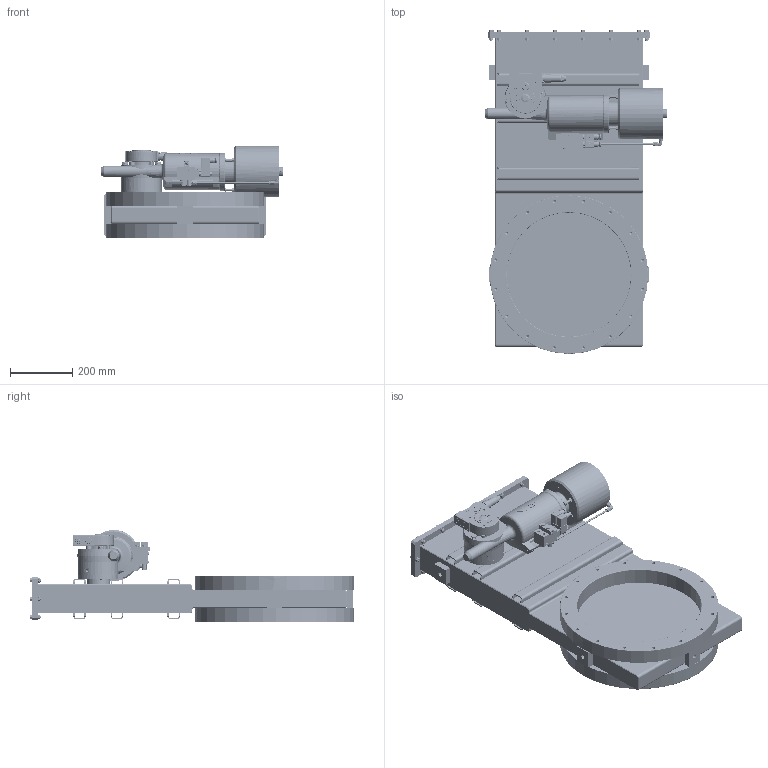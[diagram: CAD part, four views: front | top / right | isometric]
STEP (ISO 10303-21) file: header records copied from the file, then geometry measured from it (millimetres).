
FILE_DESCRIPTION(/* description */ (''),/* implementation_level */ '2;1');
FILE_NAME(/* name */ '1568134612_203.stp',/* time_stamp */ '2024-05-28T17:06:03+02:00',/* author */ (''),/* organization */ (''),/* preprocessor_version */ 'ST-DEVELOPER v19.3',/* originating_system */ 'SIEMENS PLM Software NX2212.6000',/* authorisation */ '');
FILE_SCHEMA (('AP203_CONFIGURATION_CONTROLLED_3D_DESIGN_OF_MECHANICAL_PARTS_AND_ASSEMBLIES_MIM_LF { 1 0 10303 403 2 1 2}'));
Products named in the file (69): 212392; 212406; 212368.4_37828ID; 212368.4_37826ID; 212368.4_37825ID; 212368.4; 212368.4_37823ID; 212363.2_37821ID; 212363.2_37820ID; 1009931; 467863; 467864; N-7501-501_1.2; N-7501-501_2.2; N-6203-417.1; n-6203-105.1; N-6005-474.1; N-6072-440.1; 230594.2; N-6001-499.1; 230595.2; 226273.1; 230591.1; 230750.3; n-6162-406; n-7612-031; N-6039-010.1; N-6051-011.1; n-7016-010; N-6160-011.1; N-7015-015.2; N-5062-002.1; n-7635-310; N-6016-152.1; N-7618-010.2; 48742-01.1; 37324-05.1; N-6036-003.1; 215241.3; 217292.4_37816ID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
Assembly tree (169 placements, depth 5):
  909323
    N-6053-412.2  x14
    215439.12
      217307.4  x5
      217292.4_37815ID
      217292.4_37816ID
      215241.3
      215243_MODEL
        230294
          212363.2_37820ID
          212363.2_37821ID
          212368.4_37823ID
          212368.4  x2
          212368.4_37825ID
          212368.4_37826ID
          212368.4_37828ID
          212406  x2
          212392
    N-5021-498.1  x14
    237670.1
      N-6036-003.1  x2
      37324-05.1
      N-7501-501.4_NX-ARRAGMNTKONFIG1  x2
        N-7501-501_2.2
        N-7501-501_1.2
      48742-01.1
      N-7618-010.2
      N-6016-152.1  x2
      n-7635-310
      N-5062-002.1  x2
      n-8501-300_MODELNX-ARRAGMNTArrangement 1  x2
        467864
        467863
        1009931
      N-7015-015.2  x4
      N-6160-011.1  x2
      n-7016-010  x4
      N-6051-011.1  x2
      N-6039-010.1
      n-7612-031
    230600_2.3
      n-6162-406  x8
      230750.3
      230591.1
      226273.1
      230595.2
      N-6001-499.1  x3
      230594.2
      N-6072-440.1
      N-6005-474.1  x8
      N-6053-412.2  x3
      n-6203-105.1
      N-6203-417.1
    49321-01.6
    87336-01.1
    n-6131-414  x28
    N-5021-552.1  x2
    n-6160-412  x2
    93517-01.2
    N-6029-112.1  x2
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Bounding box: 587.15 x 1041.84 x 296.5 mm (x, y, z)
Volume: 22269703.5 mm3; surface area: 4227591.2 mm2
Topology: 241 solids, 241 shells, 4490 faces, 10132 edges, 6514 vertices
Faces by surface type: plane 2434, cylinder 1305, cone 453, bspline 157, torus 84, extrusion 38, sphere 19
Full cylindrical faces by diameter (mm): 1.3 x2, 1.5 x7, 1.6 x2, 1.66 x7, 1.8 x8, 2 x24, 2.2 x2, 2.25 x20, 2.45 x20, 2.5 x1, 2.55 x4, 2.657 x1, 2.9 x5, 3 x15, 3.025 x8, 3.07 x12, 3.2 x8, 3.251 x1, 3.26 x4, 3.28 x8, 3.3 x12, 3.4 x4, 3.6 x2, 3.8 x1, 3.85 x4, 4 x18, 4.16 x3, 4.2 x5, 4.4 x4, 4.5 x3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
Entity records: 87264 total; most frequent: CARTESIAN_POINT 20180, DIRECTION 12200, ORIENTED_EDGE 10468, EDGE_CURVE 5234, AXIS2_PLACEMENT_3D 4854, EDGE_LOOP 3945, VERTEX_POINT 3855, ADVANCED_FACE 2627
